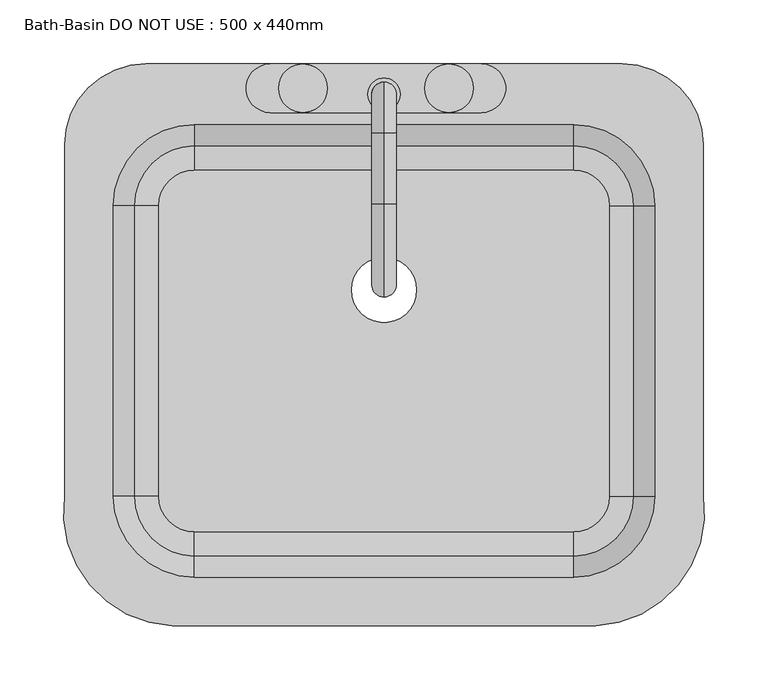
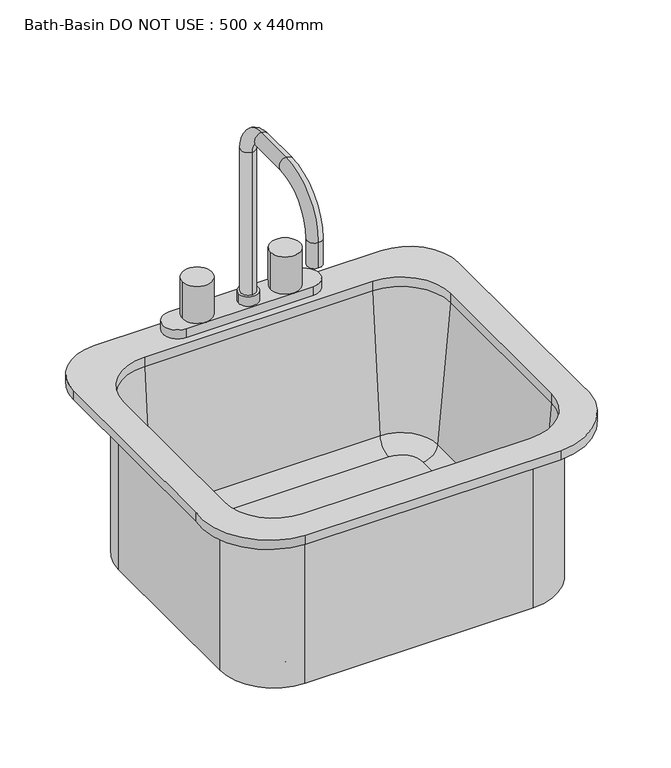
"""IFC4 building model written with IfcOpenShell, lengths in millimetres: flow terminal geometry, Bath-Basin DO NOT USE : 500 x 440mm."""

from ifc_helpers import new_model, si_unit, point, frame, origin, place, context, project, spatial, polyline, circle_curve, ellipse_curve, trimmed, source, transform, mapped, element, save
from ifc_brep_helpers import plane_surface, cylinder_surface, revolved_surface, advanced_brep


def bath_basin_do_not_use_500_x_440mm_22030706(model_context):
    return source(origin(), model_context, "Body", "AdvancedBrep", [
        advanced_brep(
        [(233.9392406, 69.0204011, 546.1), (164.0892406, 138.8704011, 546.1), (164.0892406, 138.8704011, 762.0), (233.9392406, 69.0204011, 762.0), (233.9392406, -158.2545989, 546.1), (164.0892406, -228.1045989, 546.1), (-132.7107594, -228.1045989, 546.1), (-202.5607594, -158.2545989, 546.1), (-202.5607594, 69.0204011, 546.1), (-132.7107594, 138.8704011, 546.1), (-9.7107594, 3.175, 546.1), (41.0892406, 3.175, 546.1), (192.0776588, 69.0204011, 555.625), (164.0892406, 97.0088193, 555.625), (-132.7107594, 97.0088193, 555.625), (-160.6991776, 69.0204011, 555.625), (-160.6991776, -158.2545989, 555.625), (-132.7107594, -186.2430171, 555.625), (164.0892406, -186.2430171, 555.625), (192.0776588, -158.2545989, 555.625), (-9.7107594, 3.175, 555.625), (41.0892406, 3.175, 555.625), (211.0551678, 69.0204011, 573.0146831), (164.0892406, 115.9863283, 573.0146831), (227.5892406, 69.0204011, 762.0), (164.0892406, 132.5204011, 762.0), (233.9392406, -158.2545989, 762.0), (211.0551678, -158.2545989, 573.0146831), (227.5892406, -158.2545989, 762.0), (164.0892406, -228.1045989, 762.0), (164.0892406, -205.2205261, 573.0146831), (164.0892406, -221.7545989, 762.0), (-132.7107594, -228.1045989, 762.0), (-132.7107594, -205.2205261, 573.0146831), (-132.7107594, -221.7545989, 762.0), (-202.5607594, -158.2545989, 762.0), (-179.6766866, -158.2545989, 573.0146831), (-196.2107594, -158.2545989, 762.0), (-202.5607594, 69.0204011, 762.0), (-179.6766866, 69.0204011, 573.0146831), (-196.2107594, 69.0204011, 762.0), (-132.7107594, 138.8704011, 762.0), (-132.7107594, 115.9863283, 573.0146831), (-132.7107594, 132.5204011, 762.0), (-149.9606923, -259.8545989, 774.7), (181.3391735, -259.8545989, 774.7), (265.6892406, -158.2545989, 774.7), (265.6892406, 116.6454011, 774.7), (202.1892406, 180.1454011, 774.7), (-170.8107593, 180.1454011, 774.7), (-234.3107593, 116.6454011, 774.7), (-234.3107593, -158.2545982, 774.7), (164.0892406, 132.5204011, 774.7), (227.5892406, 69.0204011, 774.7), (227.5892406, -158.2545989, 774.7), (164.0892406, -221.7545989, 774.7), (-132.7107594, -221.7545989, 774.7), (-196.2107594, -158.2545989, 774.7), (-196.2107594, 69.0204011, 774.7), (-132.7107594, 132.5204011, 774.7), (-149.9606923, -259.8545989, 762.0), (-234.3107593, -158.2545982, 762.0), (-234.3107593, 116.6454011, 762.0), (-170.8107593, 180.1454011, 762.0), (202.1892406, 180.1454011, 762.0), (265.6892406, 116.6454011, 762.0), (265.6892406, -158.2545989, 762.0), (181.3391735, -259.8545989, 762.0)],
        [
            (0, 1, circle_curve(frame((164.0892406, 69.0204011, 546.1), z_axis=(0.0, 0.0, 1.0), x_axis=(0.0, 1.0, 0.0)), 69.85)),
            (1, 2),
            (2, 3, circle_curve(frame((164.0892406, 69.0204011, 762.0), z_axis=(0.0, 0.0, -1.0), x_axis=(0.0, 1.0, 0.0)), 69.85)),
            (3, 0),
            (0, 4),
            (4, 5, circle_curve(frame((164.0892406, -158.2545989, 546.1), z_axis=(0.0, 0.0, -1.0), x_axis=(1.0, 0.0, 0.0)), 69.85)),
            (5, 6),
            (6, 7, circle_curve(frame((-132.7107594, -158.2545989, 546.1), z_axis=(0.0, 0.0, -1.0), x_axis=(0.0, -1.0, 0.0)), 69.85)),
            (7, 8),
            (8, 9, circle_curve(frame((-132.7107594, 69.0204011, 546.1), z_axis=(0.0, 0.0, -1.0), x_axis=(-1.0, 0.0, 0.0)), 69.85)),
            (9, 1),
            (10, 11, circle_curve(frame((15.6892406, 3.175, 546.1), z_axis=(0.0, 0.0, 1.0), x_axis=(1.0, 0.0, 0.0)), 25.4)),
            (11, 10, circle_curve(frame((15.6892406, 3.175, 546.1), z_axis=(0.0, 0.0, 1.0), x_axis=(1.0, 0.0, 0.0)), 25.4)),
            (12, 13, circle_curve(frame((164.0892406, 69.0204011, 555.625), z_axis=(0.0, 0.0, 1.0), x_axis=(0.0, 1.0, 0.0)), 27.9884182)),
            (13, 14),
            (14, 15, circle_curve(frame((-132.7107594, 69.0204011, 555.625), z_axis=(0.0, 0.0, 1.0), x_axis=(-1.0, 0.0, 0.0)), 27.9884182)),
            (15, 16),
            (16, 17, circle_curve(frame((-132.7107594, -158.2545989, 555.625), z_axis=(0.0, 0.0, 1.0), x_axis=(0.0, -1.0, 0.0)), 27.9884182)),
            (17, 18),
            (18, 19, circle_curve(frame((164.0892406, -158.2545989, 555.625), z_axis=(0.0, 0.0, 1.0), x_axis=(1.0, 0.0, 0.0)), 27.9884182)),
            (19, 12),
            (20, 21, circle_curve(frame((15.6892406, 3.175, 555.625), z_axis=(0.0, 0.0, -1.0), x_axis=(1.0, 0.0, 0.0)), 25.4)),
            (21, 20, circle_curve(frame((15.6892406, 3.175, 555.625), z_axis=(0.0, 0.0, -1.0), x_axis=(1.0, 0.0, 0.0)), 25.4)),
            (12, 22, circle_curve(frame((192.0776588, 69.0204011, 574.675), z_axis=(0.0, -1.0, 0.0), x_axis=(1.0, 0.0, 0.0)), 19.05)),
            (22, 23, circle_curve(frame((164.0892406, 69.0204011, 573.0146831), z_axis=(0.0, 0.0, 1.0), x_axis=(0.0, 1.0, 0.0)), 46.9659272)),
            (23, 13, circle_curve(frame((164.0892406, 97.0088193, 574.675), z_axis=(-1.0, 0.0, 0.0), x_axis=(0.0, 1.0, 0.0)), 19.05)),
            (22, 24),
            (24, 25, circle_curve(frame((164.0892406, 69.0204011, 762.0), z_axis=(0.0, 0.0, 1.0), x_axis=(0.0, 1.0, 0.0)), 63.5)),
            (25, 23),
            (3, 26),
            (26, 4),
            (19, 27, circle_curve(frame((192.0776588, -158.2545989, 574.675), z_axis=(0.0, -1.0, 0.0), x_axis=(1.0, 0.0, 0.0)), 19.05)),
            (27, 22),
            (27, 28),
            (28, 24),
            (26, 29, circle_curve(frame((164.0892406, -158.2545989, 762.0), z_axis=(0.0, 0.0, -1.0), x_axis=(1.0, 0.0, 0.0)), 69.85)),
            (29, 5),
            (18, 30, circle_curve(frame((164.0892406, -186.2430171, 574.675), z_axis=(-1.0, 0.0, 0.0), x_axis=(0.0, -1.0, 0.0)), 19.05)),
            (30, 27, circle_curve(frame((164.0892406, -158.2545989, 573.0146831), z_axis=(0.0, 0.0, 1.0), x_axis=(1.0, 0.0, 0.0)), 46.9659272)),
            (30, 31),
            (31, 28, circle_curve(frame((164.0892406, -158.2545989, 762.0), z_axis=(0.0, 0.0, 1.0), x_axis=(1.0, 0.0, 0.0)), 63.5)),
            (29, 32),
            (32, 6),
            (17, 33, circle_curve(frame((-132.7107594, -186.2430171, 574.675), z_axis=(-1.0, 0.0, 0.0), x_axis=(0.0, -1.0, 0.0)), 19.05)),
            (33, 30),
            (33, 34),
            (34, 31),
            (32, 35, circle_curve(frame((-132.7107594, -158.2545989, 762.0), z_axis=(0.0, 0.0, -1.0), x_axis=(0.0, -1.0, 0.0)), 69.85)),
            (35, 7),
            (16, 36, circle_curve(frame((-160.6991776, -158.2545989, 574.675), z_axis=(0.0, 1.0, 0.0), x_axis=(-1.0, 0.0, 0.0)), 19.05)),
            (36, 33, circle_curve(frame((-132.7107594, -158.2545989, 573.0146831), z_axis=(0.0, 0.0, 1.0), x_axis=(0.0, -1.0, 0.0)), 46.9659272)),
            (36, 37),
            (37, 34, circle_curve(frame((-132.7107594, -158.2545989, 762.0), z_axis=(0.0, 0.0, 1.0), x_axis=(0.0, -1.0, 0.0)), 63.5)),
            (35, 38),
            (38, 8),
            (15, 39, circle_curve(frame((-160.6991776, 69.0204011, 574.675), z_axis=(0.0, 1.0, 0.0), x_axis=(-1.0, 0.0, 0.0)), 19.05)),
            (39, 36),
            (39, 40),
            (40, 37),
            (38, 41, circle_curve(frame((-132.7107594, 69.0204011, 762.0), z_axis=(0.0, 0.0, -1.0), x_axis=(-1.0, 0.0, 0.0)), 69.85)),
            (41, 9),
            (14, 42, circle_curve(frame((-132.7107594, 97.0088193, 574.675), z_axis=(1.0, 0.0, 0.0), x_axis=(0.0, 1.0, 0.0)), 19.05)),
            (42, 39, circle_curve(frame((-132.7107594, 69.0204011, 573.0146831), z_axis=(0.0, 0.0, 1.0), x_axis=(-1.0, 0.0, 0.0)), 46.9659272)),
            (42, 43),
            (43, 40, circle_curve(frame((-132.7107594, 69.0204011, 762.0), z_axis=(0.0, 0.0, 1.0), x_axis=(-1.0, 0.0, 0.0)), 63.5)),
            (41, 2),
            (23, 42),
            (25, 43),
            (20, 10),
            (11, 21),
            (44, 45),
            (45, 46, circle_curve(frame((177.5319557, -170.8793432, 774.7), z_axis=(0.0, 0.0, 1.0), x_axis=(1.0, 0.0, 0.0)), 89.0566732)),
            (46, 47),
            (47, 48, circle_curve(frame((202.1892406, 116.6454011, 774.7), z_axis=(0.0, 0.0, 1.0), x_axis=(1.0, 0.0, 0.0)), 63.5)),
            (48, 49),
            (49, 50, circle_curve(frame((-170.8107593, 116.6454011, 774.7), z_axis=(0.0, 0.0, 1.0), x_axis=(1.0, 0.0, 0.0)), 63.5)),
            (50, 51),
            (51, 44, circle_curve(frame((-146.1534746, -170.8793432, 774.7), z_axis=(0.0, 0.0, 1.0), x_axis=(1.0, 0.0, 0.0)), 89.0566732)),
            (52, 53, circle_curve(frame((164.0892406, 69.0204011, 774.7), z_axis=(0.0, 0.0, -1.0), x_axis=(1.0, 0.0, 0.0)), 63.5)),
            (53, 54),
            (54, 55, circle_curve(frame((164.0892406, -158.2545989, 774.7), z_axis=(0.0, 0.0, -1.0), x_axis=(1.0, 0.0, 0.0)), 63.5)),
            (55, 56),
            (56, 57, circle_curve(frame((-132.7107594, -158.2545989, 774.7), z_axis=(0.0, 0.0, -1.0), x_axis=(1.0, 0.0, 0.0)), 63.5)),
            (57, 58),
            (58, 59, circle_curve(frame((-132.7107594, 69.0204011, 774.7), z_axis=(0.0, 0.0, -1.0), x_axis=(1.0, 0.0, 0.0)), 63.5)),
            (59, 52),
            (60, 61, circle_curve(frame((-146.1534746, -170.8793432, 762.0), z_axis=(0.0, 0.0, -1.0), x_axis=(1.0, 0.0, 0.0)), 89.0566732)),
            (61, 62),
            (62, 63, circle_curve(frame((-170.8107593, 116.6454011, 762.0), z_axis=(0.0, 0.0, -1.0), x_axis=(1.0, 0.0, 0.0)), 63.5)),
            (63, 64),
            (64, 65, circle_curve(frame((202.1892406, 116.6454011, 762.0), z_axis=(0.0, 0.0, -1.0), x_axis=(1.0, 0.0, 0.0)), 63.5)),
            (65, 66),
            (66, 67, circle_curve(frame((177.5319557, -170.8793432, 762.0), z_axis=(0.0, 0.0, -1.0), x_axis=(1.0, 0.0, 0.0)), 89.0566732)),
            (67, 60),
            (44, 60),
            (67, 45),
            (66, 46),
            (65, 47),
            (64, 48),
            (63, 49),
            (62, 50),
            (61, 51),
            (52, 25),
            (24, 53),
            (28, 54),
            (31, 55),
            (34, 56),
            (37, 57),
            (40, 58),
            (43, 59),
        ],
        [
            cylinder_surface(frame((164.0892406, 69.0204011, 0.0), z_axis=(0.0, 0.0, -1.0), x_axis=(0.0, 1.0, 0.0)), 69.85),
            plane_surface(frame((164.0892406, 69.0204011, 546.1), z_axis=(0.0, 0.0, -1.0), x_axis=(0.0, 1.0, 0.0))),
            plane_surface(frame((164.0892406, 69.0204011, 555.625), z_axis=(0.0, 0.0, 1.0), x_axis=(0.0, 1.0, 0.0))),
            revolved_surface(trimmed(ellipse_curve(frame((164.0892406, 97.0088193, 574.675), z_axis=(1.0, 0.0, 0.0), x_axis=(0.0, 1.0, 0.0)), 19.05, 19.05), [point((164.0892406, 97.0088193, 555.625))], [point((164.0892406, 115.9863283, 573.0146831))], True, "CARTESIAN"), (164.0892406, 69.0204011, 0.0), (0.0, 0.0, -1.0)),
            revolved_surface(polyline([(164.0892406, 115.9863283, 573.0146831), (164.0892406, 132.5204011, 762.0)]), (164.0892406, 69.0204011, 0.0), (0.0, 0.0, -1.0)),
            plane_surface(frame((233.9392406, 69.0204011, 762.0), z_axis=(1.0, 0.0, 0.0), x_axis=(0.0, -1.0, 0.0))),
            revolved_surface(polyline([(211.1276588, -158.25459889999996, 574.675), (211.1276588, 69.0204011, 574.675)]), (192.0776588, 69.0204011, 574.675), (0.0, -1.0, 0.0)),
            plane_surface(frame((211.0551678, 69.0204011, 573.0146831), z_axis=(-0.9961946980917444, 0.0, 0.08715574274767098), x_axis=(0.0, -1.0, 0.0))),
            cylinder_surface(frame((164.0892406, -158.2545989, 0.0), z_axis=(0.0, 0.0, -1.0), x_axis=(1.0, 0.0, 0.0)), 69.85),
            revolved_surface(trimmed(ellipse_curve(frame((192.0776588, -158.2545989, 574.675), z_axis=(0.0, -1.0, 0.0), x_axis=(1.0, 0.0, 0.0)), 19.05, 19.05), [point((192.0776588, -158.2545989, 555.625))], [point((211.0551678, -158.2545989, 573.0146831))], True, "CARTESIAN"), (164.0892406, -158.2545989, 0.0), (0.0, 0.0, -1.0)),
            revolved_surface(polyline([(211.0551678, -158.2545989, 573.0146831), (227.5892406, -158.2545989, 762.0)]), (164.0892406, -158.2545989, 0.0), (0.0, 0.0, -1.0)),
            plane_surface(frame((164.0892406, -228.1045989, 762.0), z_axis=(0.0, -1.0, 0.0), x_axis=(-1.0, 0.0, 0.0))),
            revolved_surface(polyline([(-132.7107594, -205.29301710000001, 574.675), (164.0892406, -205.29301710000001, 574.675)]), (164.0892406, -186.2430171, 574.675), (-1.0, 0.0, 0.0)),
            plane_surface(frame((164.0892406, -205.2205261, 573.0146831), z_axis=(0.0, 0.9961946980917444, 0.08715574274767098), x_axis=(-1.0, 0.0, 0.0))),
            cylinder_surface(frame((-132.7107594, -158.2545989, 0.0), z_axis=(0.0, 0.0, -1.0), x_axis=(0.0, -1.0, 0.0)), 69.85),
            revolved_surface(trimmed(ellipse_curve(frame((-132.7107594, -186.2430171, 574.675), z_axis=(-1.0, 0.0, 0.0), x_axis=(0.0, -1.0, 0.0)), 19.05, 19.05), [point((-132.7107594, -186.2430171, 555.625))], [point((-132.7107594, -205.2205261, 573.0146831))], True, "CARTESIAN"), (-132.7107594, -158.2545989, 0.0), (0.0, 0.0, -1.0)),
            revolved_surface(polyline([(-132.7107594, -205.2205261, 573.0146831), (-132.7107594, -221.7545989, 762.0)]), (-132.7107594, -158.2545989, 0.0), (0.0, 0.0, -1.0)),
            plane_surface(frame((-202.5607594, -158.2545989, 762.0), z_axis=(-1.0, 0.0, 0.0), x_axis=(0.0, 1.0, 0.0))),
            revolved_surface(polyline([(-179.74917760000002, 69.02040109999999, 574.675), (-179.74917760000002, -158.2545989, 574.675)]), (-160.6991776, -158.2545989, 574.675), (0.0, 1.0, 0.0)),
            plane_surface(frame((-179.6766866, -158.2545989, 573.0146831), z_axis=(0.9961946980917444, 0.0, 0.08715574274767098), x_axis=(0.0, 1.0, 0.0))),
            cylinder_surface(frame((-132.7107594, 69.0204011, 0.0), z_axis=(0.0, 0.0, -1.0), x_axis=(-1.0, 0.0, 0.0)), 69.85),
            revolved_surface(trimmed(ellipse_curve(frame((-160.6991776, 69.0204011, 574.675), z_axis=(0.0, 1.0, 0.0), x_axis=(-1.0, 0.0, 0.0)), 19.05, 19.05), [point((-160.6991776, 69.0204011, 555.625))], [point((-179.6766866, 69.0204011, 573.0146831))], True, "CARTESIAN"), (-132.7107594, 69.0204011, 0.0), (0.0, 0.0, -1.0)),
            revolved_surface(polyline([(-179.6766866, 69.0204011, 573.0146831), (-196.2107594, 69.0204011, 762.0)]), (-132.7107594, 69.0204011, 0.0), (0.0, 0.0, -1.0)),
            plane_surface(frame((-132.7107594, 138.8704011, 762.0), z_axis=(0.0, 1.0, 0.0), x_axis=(1.0, 0.0, 0.0))),
            revolved_surface(polyline([(164.0892406, 116.0588193, 574.675), (-132.7107594, 116.0588193, 574.675)]), (-132.7107594, 97.0088193, 574.675), (1.0, 0.0, 0.0)),
            plane_surface(frame((-132.7107594, 115.9863283, 573.0146831), z_axis=(0.0, -0.9961946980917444, 0.08715574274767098), x_axis=(1.0, 0.0, 0.0))),
            revolved_surface(polyline([(41.0892406, 3.175, 546.1), (41.0892406, 3.175, 555.625)]), (15.6892406, 3.175, 0.0), (0.0, 0.0, -1.0)),
            plane_surface(frame((181.3391735, -259.8545989, 774.7), z_axis=(0.0, 0.0, 1.0), x_axis=(1.0, 0.0, 0.0))),
            plane_surface(frame((181.3391735, -259.8545989, 762.0), z_axis=(0.0, 0.0, -1.0), x_axis=(-1.0, 0.0, 0.0))),
            plane_surface(frame((-149.9606923, -259.8545989, 774.7), z_axis=(0.0, -1.0, 0.0), x_axis=(0.0, 0.0, -1.0))),
            cylinder_surface(frame((177.5319557, -170.8793432, 762.0), z_axis=(0.0, 0.0, 1.0), x_axis=(1.0, 0.0, 0.0)), 89.0566732),
            plane_surface(frame((265.6892406, -158.2545989, 774.7), z_axis=(1.0, 0.0, 0.0), x_axis=(0.0, 0.0, -1.0))),
            cylinder_surface(frame((202.1892406, 116.6454011, 762.0), z_axis=(0.0, 0.0, 1.0), x_axis=(1.0, 0.0, 0.0)), 63.5),
            plane_surface(frame((202.1892406, 180.1454011, 774.7), z_axis=(0.0, 1.0, 0.0), x_axis=(0.0, 0.0, -1.0))),
            cylinder_surface(frame((-170.8107593, 116.6454011, 762.0), z_axis=(0.0, 0.0, 1.0), x_axis=(1.0, 0.0, 0.0)), 63.5),
            plane_surface(frame((-234.3107593, 116.6454011, 774.7), z_axis=(-1.0, 0.0, 0.0), x_axis=(0.0, 0.0, -1.0))),
            cylinder_surface(frame((-146.1534746, -170.8793432, 762.0), z_axis=(0.0, 0.0, 1.0), x_axis=(1.0, 0.0, 0.0)), 89.0566732),
            revolved_surface(polyline([(227.5892406, 69.0204011, 762.0), (227.5892406, 69.0204011, 774.7)]), (164.0892406, 69.0204011, 0.0), (0.0, 0.0, -1.0)),
            plane_surface(frame((227.5892406, 69.0204011, 774.7), z_axis=(-1.0, 0.0, 0.0), x_axis=(0.0, 0.0, -1.0))),
            revolved_surface(polyline([(227.5892406, -158.2545989, 762.0), (227.5892406, -158.2545989, 774.7)]), (164.0892406, -158.2545989, 0.0), (0.0, 0.0, -1.0)),
            plane_surface(frame((164.0892406, -221.7545989, 774.7), z_axis=(0.0, 1.0, 0.0), x_axis=(0.0, 0.0, -1.0))),
            revolved_surface(polyline([(-69.2107594, -158.2545989, 762.0), (-69.2107594, -158.2545989, 774.7)]), (-132.7107594, -158.2545989, 0.0), (0.0, 0.0, -1.0)),
            plane_surface(frame((-196.2107594, -158.2545989, 774.7), z_axis=(1.0, 0.0, 0.0), x_axis=(0.0, 0.0, -1.0))),
            revolved_surface(polyline([(-69.2107594, 69.0204011, 762.0), (-69.2107594, 69.0204011, 774.7)]), (-132.7107594, 69.0204011, 0.0), (0.0, 0.0, -1.0)),
            plane_surface(frame((-132.7107594, 132.5204011, 774.7), z_axis=(0.0, -1.0, 0.0), x_axis=(0.0, 0.0, -1.0))),
        ],
        [
            (0, [[1, 2, 3, 4]]),
            (1, [[-1, 5, 6, 7, 8, 9, 10, 11], [12, 13]]),
            (2, [[14, 15, 16, 17, 18, 19, 20, 21], [22, 23]]),
            (3, [[-14, 24, 25, 26]]),
            (4, [[-25, 27, 28, 29]]),
            (5, [[-4, 30, 31, -5]]),
            (6, [[-24, -21, 32, 33]]),
            (7, [[-27, -33, 34, 35]]),
            (8, [[-31, 36, 37, -6]]),
            (9, [[-32, -20, 38, 39]]),
            (10, [[-34, -39, 40, 41]]),
            (11, [[-37, 42, 43, -7]]),
            (12, [[-38, -19, 44, 45]]),
            (13, [[-40, -45, 46, 47]]),
            (14, [[-43, 48, 49, -8]]),
            (15, [[-44, -18, 50, 51]]),
            (16, [[-46, -51, 52, 53]]),
            (17, [[-49, 54, 55, -9]]),
            (18, [[-50, -17, 56, 57]]),
            (19, [[-52, -57, 58, 59]]),
            (20, [[-55, 60, 61, -10]]),
            (21, [[-56, -16, 62, 63]]),
            (22, [[-58, -63, 64, 65]]),
            (23, [[-2, -11, -61, 66]]),
            (24, [[-26, 67, -62, -15]]),
            (25, [[-29, 68, -64, -67]]),
            (26, [[-22, 69, -13, 70]]),
            (26, [[-23, -70, -12, -69]]),
            (27, [[71, 72, 73, 74, 75, 76, 77, 78], [79, 80, 81, 82, 83, 84, 85, 86]]),
            (28, [[87, 88, 89, 90, 91, 92, 93, 94], [-3, -66, -60, -54, -48, -42, -36, -30]]),
            (29, [[-71, 95, -94, 96]]),
            (30, [[-72, -96, -93, 97]]),
            (31, [[-73, -97, -92, 98]]),
            (32, [[-74, -98, -91, 99]]),
            (33, [[-75, -99, -90, 100]]),
            (34, [[-76, -100, -89, 101]]),
            (35, [[-77, -101, -88, 102]]),
            (36, [[-78, -102, -87, -95]]),
            (37, [[-79, 103, -28, 104]]),
            (38, [[-80, -104, -35, 105]]),
            (39, [[-81, -105, -41, 106]]),
            (40, [[-82, -106, -47, 107]]),
            (41, [[-83, -107, -53, 108]]),
            (42, [[-84, -108, -59, 109]]),
            (43, [[-85, -109, -65, 110]]),
            (44, [[-86, -110, -68, -103]]),
        ],
    ),
        advanced_brep(
        [(91.8892406, 180.1454011, 774.7), (91.8892406, 142.0454011, 774.7), (66.4892406, 142.0454011, 774.7), (-47.8107594, 142.0454011, 774.7), (-73.2107594, 142.0454011, 774.7), (-73.2107594, 180.1454011, 774.7), (-47.8107594, 180.1454011, 774.7), (66.4892406, 180.1454011, 774.7), (15.6892406, 165.8579011, 995.3625), (15.6892406, 146.8079011, 995.3625), (15.6892406, 146.8079011, 800.1), (15.6892406, 165.8579011, 800.1), (15.6892406, 126.1704011, 1035.05), (15.6892406, 126.1704011, 1016.0), (15.6892406, 70.6079011, 1035.05), (15.6892406, 70.6079011, 1016.0), (15.6892406, -2.4170989, 962.025), (15.6892406, 16.6329011, 962.025), (15.6892406, -2.4170989, 927.1), (15.6892406, 16.6329011, 927.1), (2.9892406, 156.3329011, 800.1), (28.3892406, 156.3329011, 800.1), (2.9892406, 156.3329011, 787.2), (28.3892406, 156.3329011, 787.2), (-73.2107594, 180.1454011, 787.2), (-73.2107594, 142.0454011, 787.2), (-47.8107594, 142.0454011, 787.2), (-66.8607594, 161.0954011, 787.2), (-47.8107594, 180.1454011, 787.2), (91.8892406, 142.0454011, 787.2), (91.8892406, 180.1454011, 787.2), (66.4892406, 180.1454011, 787.2), (85.5392406, 161.0954011, 787.2), (66.4892406, 142.0454011, 787.2), (-28.7607594, 161.0954011, 787.2), (47.4392406, 161.0954011, 787.2), (-66.8607594, 161.0954011, 838.2), (-28.7607594, 161.0954011, 838.2), (47.4392406, 161.0954011, 838.2), (85.5392406, 161.0954011, 838.2)],
        [
            (0, 1, circle_curve(frame((91.8892406, 161.0954011, 774.7), z_axis=(0.0, 0.0, -1.0), x_axis=(1.0, 0.0, 0.0)), 19.05)),
            (1, 2),
            (2, 3),
            (3, 4),
            (4, 5, circle_curve(frame((-73.2107594, 161.0954011, 774.7), z_axis=(0.0, 0.0, -1.0), x_axis=(1.0, 0.0, 0.0)), 19.05)),
            (5, 6),
            (6, 7),
            (7, 0),
            (8, 9, circle_curve(frame((15.6892406, 156.3329011, 995.3625), z_axis=(0.0, 0.0, -1.0), x_axis=(0.0, -1.0, 0.0)), 9.525)),
            (9, 10),
            (10, 11, circle_curve(frame((15.6892406, 156.3329011, 800.1), z_axis=(0.0, 0.0, 1.0), x_axis=(0.0, -1.0, 0.0)), 9.525)),
            (11, 8),
            (9, 8, circle_curve(frame((15.6892406, 156.3329011, 995.3625), z_axis=(0.0, 0.0, -1.0), x_axis=(0.0, -1.0, 0.0)), 9.525)),
            (11, 10, circle_curve(frame((15.6892406, 156.3329011, 800.1), z_axis=(0.0, 0.0, 1.0), x_axis=(0.0, -1.0, 0.0)), 9.525)),
            (8, 12, circle_curve(frame((15.6892406, 126.1704011, 995.3625), z_axis=(1.0, 0.0, 0.0), x_axis=(0.0, 1.0, 0.0)), 39.6875)),
            (12, 13, circle_curve(frame((15.6892406, 126.1704011, 1025.525), z_axis=(0.0, 1.0, 0.0), x_axis=(0.0, 0.0, -1.0)), 9.525)),
            (13, 9, circle_curve(frame((15.6892406, 126.1704011, 995.3625), z_axis=(-1.0, 0.0, 0.0), x_axis=(0.0, 1.0, 0.0)), 20.6375)),
            (13, 12, circle_curve(frame((15.6892406, 126.1704011, 1025.525), z_axis=(0.0, 1.0, 0.0), x_axis=(0.0, 0.0, -1.0)), 9.525)),
            (12, 14),
            (14, 15, circle_curve(frame((15.6892406, 70.6079011, 1025.525), z_axis=(0.0, 1.0, 0.0), x_axis=(0.0, 0.0, -1.0)), 9.525)),
            (15, 13),
            (15, 14, circle_curve(frame((15.6892406, 70.6079011, 1025.525), z_axis=(0.0, 1.0, 0.0), x_axis=(0.0, 0.0, -1.0)), 9.525)),
            (14, 16, circle_curve(frame((15.6892406, 70.6079011, 962.025), z_axis=(1.0, 0.0, 0.0), x_axis=(0.0, 0.0, 1.0)), 73.025)),
            (16, 17, circle_curve(frame((15.6892406, 7.1079011, 962.025), z_axis=(0.0, 0.0, 1.0), x_axis=(0.0, 1.0, 0.0)), 9.525)),
            (17, 15, circle_curve(frame((15.6892406, 70.6079011, 962.025), z_axis=(-1.0, 0.0, 0.0), x_axis=(0.0, 0.0, 1.0)), 53.975)),
            (17, 16, circle_curve(frame((15.6892406, 7.1079011, 962.025), z_axis=(0.0, 0.0, 1.0), x_axis=(0.0, 1.0, 0.0)), 9.525)),
            (18, 19, circle_curve(frame((15.6892406, 7.1079011, 927.1), z_axis=(0.0, 0.0, -1.0), x_axis=(0.0, 1.0, 0.0)), 9.525)),
            (19, 18, circle_curve(frame((15.6892406, 7.1079011, 927.1), z_axis=(0.0, 0.0, -1.0), x_axis=(0.0, 1.0, 0.0)), 9.525)),
            (16, 18),
            (19, 17),
            (20, 21, circle_curve(frame((15.6892406, 156.3329011, 800.1), z_axis=(0.0, 0.0, 1.0), x_axis=(1.0, 0.0, 0.0)), 12.7)),
            (21, 20, circle_curve(frame((15.6892406, 156.3329011, 800.1), z_axis=(0.0, 0.0, 1.0), x_axis=(1.0, 0.0, 0.0)), 12.7)),
            (20, 22),
            (22, 23, circle_curve(frame((15.6892406, 156.3329011, 787.2), z_axis=(0.0, 0.0, 1.0), x_axis=(1.0, 0.0, 0.0)), 12.7)),
            (23, 21),
            (23, 22, circle_curve(frame((15.6892406, 156.3329011, 787.2), z_axis=(0.0, 0.0, 1.0), x_axis=(1.0, 0.0, 0.0)), 12.7)),
            (24, 25, circle_curve(frame((-73.2107594, 161.0954011, 787.2), z_axis=(0.0, 0.0, 1.0), x_axis=(1.0, 0.0, 0.0)), 19.05)),
            (25, 26),
            (26, 27, circle_curve(frame((-47.8107594, 161.0954011, 787.2), z_axis=(0.0, 0.0, -1.0), x_axis=(1.0, 0.0, 0.0)), 19.05)),
            (27, 28, circle_curve(frame((-47.8107594, 161.0954011, 787.2), z_axis=(0.0, 0.0, -1.0), x_axis=(1.0, 0.0, 0.0)), 19.05)),
            (28, 24),
            (29, 30, circle_curve(frame((91.8892406, 161.0954011, 787.2), z_axis=(0.0, 0.0, 1.0), x_axis=(1.0, 0.0, 0.0)), 19.05)),
            (30, 31),
            (31, 32, circle_curve(frame((66.4892406, 161.0954011, 787.2), z_axis=(0.0, 0.0, -1.0), x_axis=(1.0, 0.0, 0.0)), 19.05)),
            (32, 33, circle_curve(frame((66.4892406, 161.0954011, 787.2), z_axis=(0.0, 0.0, -1.0), x_axis=(1.0, 0.0, 0.0)), 19.05)),
            (33, 29),
            (31, 28),
            (28, 34, circle_curve(frame((-47.8107594, 161.0954011, 787.2), z_axis=(0.0, 0.0, -1.0), x_axis=(1.0, 0.0, 0.0)), 19.05)),
            (34, 26, circle_curve(frame((-47.8107594, 161.0954011, 787.2), z_axis=(0.0, 0.0, -1.0), x_axis=(1.0, 0.0, 0.0)), 19.05)),
            (26, 33),
            (33, 35, circle_curve(frame((66.4892406, 161.0954011, 787.2), z_axis=(0.0, 0.0, -1.0), x_axis=(1.0, 0.0, 0.0)), 19.05)),
            (35, 31, circle_curve(frame((66.4892406, 161.0954011, 787.2), z_axis=(0.0, 0.0, -1.0), x_axis=(1.0, 0.0, 0.0)), 19.05)),
            (30, 0),
            (5, 24),
            (4, 25),
            (1, 29),
            (36, 37, circle_curve(frame((-47.8107594, 161.0954011, 838.2), z_axis=(0.0, 0.0, 1.0), x_axis=(1.0, 0.0, 0.0)), 19.05)),
            (37, 36, circle_curve(frame((-47.8107594, 161.0954011, 838.2), z_axis=(0.0, 0.0, 1.0), x_axis=(1.0, 0.0, 0.0)), 19.05)),
            (38, 39, circle_curve(frame((66.4892406, 161.0954011, 838.2), z_axis=(0.0, 0.0, 1.0), x_axis=(1.0, 0.0, 0.0)), 19.05)),
            (39, 38, circle_curve(frame((66.4892406, 161.0954011, 838.2), z_axis=(0.0, 0.0, 1.0), x_axis=(1.0, 0.0, 0.0)), 19.05)),
            (36, 27),
            (34, 37),
            (38, 35),
            (32, 39),
        ],
        [
            plane_surface(frame((15.6892406, 146.8079011, 774.7), z_axis=(0.0, 0.0, -1.0), x_axis=(1.0, 0.0, 0.0))),
            cylinder_surface(frame((15.6892406, 156.3329011, 774.7), z_axis=(0.0, 0.0, -1.0), x_axis=(0.0, -1.0, 0.0)), 9.525),
            revolved_surface(trimmed(ellipse_curve(frame((15.6892406, 156.3329011, 995.3625), z_axis=(0.0, 0.0, -1.0), x_axis=(0.0, -1.0, 0.0)), 9.525, 9.525), [point((15.6892406, 165.8579011, 995.3625))], [point((15.6892406, 146.8079011, 995.3625))], True, "CARTESIAN"), (15.6892406, 126.1704011, 995.3625), (1.0, 0.0, 0.0)),
            revolved_surface(trimmed(ellipse_curve(frame((15.6892406, 156.3329011, 995.3625), z_axis=(0.0, 0.0, -1.0), x_axis=(0.0, -1.0, 0.0)), 9.525, 9.525), [point((15.6892406, 146.8079011, 995.3625))], [point((15.6892406, 165.8579011, 995.3625))], True, "CARTESIAN"), (15.6892406, 126.1704011, 995.3625), (1.0, 0.0, 0.0)),
            cylinder_surface(frame((15.6892406, 126.1704011, 1025.525), z_axis=(0.0, 1.0, 0.0), x_axis=(0.0, 0.0, -1.0)), 9.525),
            revolved_surface(trimmed(ellipse_curve(frame((15.6892406, 70.6079011, 1025.525), z_axis=(0.0, 1.0, 0.0), x_axis=(0.0, 0.0, -1.0)), 9.525, 9.525), [point((15.6892406, 70.6079011, 1035.05))], [point((15.6892406, 70.6079011, 1016.0))], True, "CARTESIAN"), (15.6892406, 70.6079011, 962.025), (1.0, 0.0, 0.0)),
            revolved_surface(trimmed(ellipse_curve(frame((15.6892406, 70.6079011, 1025.525), z_axis=(0.0, 1.0, 0.0), x_axis=(0.0, 0.0, -1.0)), 9.525, 9.525), [point((15.6892406, 70.6079011, 1016.0))], [point((15.6892406, 70.6079011, 1035.05))], True, "CARTESIAN"), (15.6892406, 70.6079011, 962.025), (1.0, 0.0, 0.0)),
            plane_surface(frame((15.6892406, -2.4170989, 927.1), z_axis=(0.0, 0.0, -1.0), x_axis=(-1.0, 0.0, 0.0))),
            cylinder_surface(frame((15.6892406, 7.1079011, 962.025), z_axis=(0.0, 0.0, 1.0), x_axis=(0.0, 1.0, 0.0)), 9.525),
            plane_surface(frame((28.3892406, 156.3329011, 800.1), z_axis=(0.0, 0.0, 1.0), x_axis=(0.0, 1.0, 0.0))),
            cylinder_surface(frame((15.6892406, 156.3329011, 774.7), z_axis=(0.0, 0.0, 1.0), x_axis=(1.0, 0.0, 0.0)), 12.7),
            plane_surface(frame((-73.2107594, 180.1454011, 787.2), z_axis=(0.0, 0.0, 1.0), x_axis=(-1.0, 0.0, 0.0))),
            plane_surface(frame((91.8892406, 180.1454011, 787.2), z_axis=(0.0, 1.0, 0.0), x_axis=(0.0, 0.0, -1.0))),
            cylinder_surface(frame((-73.2107594, 161.0954011, 774.7), z_axis=(0.0, 0.0, 1.0), x_axis=(1.0, 0.0, 0.0)), 19.05),
            plane_surface(frame((-73.2107594, 142.0454011, 787.2), z_axis=(0.0, -1.0, 0.0), x_axis=(0.0, 0.0, -1.0))),
            cylinder_surface(frame((91.8892406, 161.0954011, 774.7), z_axis=(0.0, 0.0, 1.0), x_axis=(1.0, 0.0, 0.0)), 19.05),
            plane_surface(frame((-28.7607594, 161.0954011, 838.2), z_axis=(0.0, 0.0, 1.0), x_axis=(0.0, 1.0, 0.0))),
            cylinder_surface(frame((-47.8107594, 161.0954011, 774.7), z_axis=(0.0, 0.0, 1.0), x_axis=(1.0, 0.0, 0.0)), 19.05),
            cylinder_surface(frame((66.4892406, 161.0954011, 0.0), z_axis=(0.0, 0.0, 1.0), x_axis=(1.0, 0.0, 0.0)), 19.05),
        ],
        [
            (0, [[1, 2, 3, 4, 5, 6, 7, 8]]),
            (1, [[9, 10, 11, 12]]),
            (1, [[13, -12, 14, -10]]),
            (2, [[-9, 15, 16, 17]]),
            (3, [[-13, -17, 18, -15]]),
            (4, [[-16, 19, 20, 21]]),
            (4, [[-18, -21, 22, -19]]),
            (5, [[-20, 23, 24, 25]]),
            (6, [[-22, -25, 26, -23]]),
            (7, [[27, 28]]),
            (8, [[-24, 29, -28, 30]]),
            (8, [[-26, -30, -27, -29]]),
            (9, [[31, 32], [-11, -14]]),
            (10, [[-31, 33, 34, 35]]),
            (10, [[-32, -35, 36, -33]]),
            (11, [[37, 38, 39, 40, 41]]),
            (11, [[42, 43, 44, 45, 46]]),
            (11, [[47, 48, 49, 50, 51, 52], [-34, -36]]),
            (12, [[53, -8, -7, -6, 54, -41, -47, -43]]),
            (13, [[-37, -54, -5, 55]]),
            (14, [[-55, -4, -3, -2, 56, -46, -50, -38]]),
            (15, [[-42, -56, -1, -53]]),
            (16, [[57, 58]]),
            (16, [[59, 60]]),
            (17, [[-57, 61, -39, -49, 62]]),
            (17, [[-58, -62, -48, -40, -61]]),
            (18, [[-59, 63, -51, -45, 64]]),
            (18, [[-60, -64, -44, -52, -63]]),
        ],
    ),
    ])


if __name__ == "__main__":
    model = new_model("IFC4")
    model_context = context("Model", 3, world=origin())
    ifc_project = project(units=[si_unit("LENGTHUNIT", "METRE", prefix="MILLI")], contexts=[model_context])
    site = spatial("IfcSite", under=ifc_project)
    building = spatial("IfcBuilding", under=site)
    placement = place(None, origin())
    bath_basin_do_not_use_500_x_440mm_shape = bath_basin_do_not_use_500_x_440mm_22030706(model_context)
    element("IfcFlowTerminal", 1, ObjectType="Bath-Basin DO NOT USE : 500 x 440mm", at=placement, inside=building, context=model_context, shape_type="MappedRepresentation", body=[
        mapped(bath_basin_do_not_use_500_x_440mm_shape, transform((0.0, 0.0, 0.0), x_axis=(1.0, 0.0, 0.0), y_axis=(0.0, 1.0, 0.0), z_axis=(0.0, 0.0, 1.0))),
    ])
    save(model, "model.ifc")
